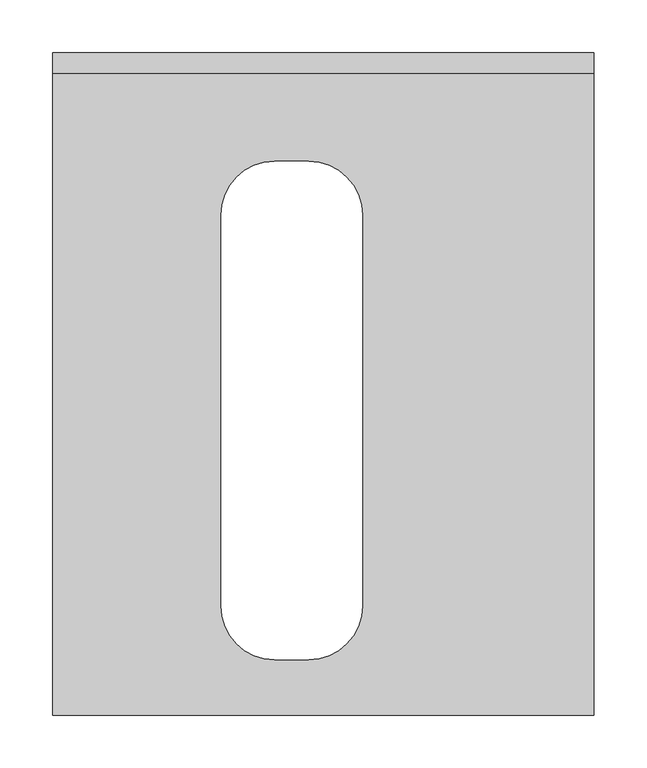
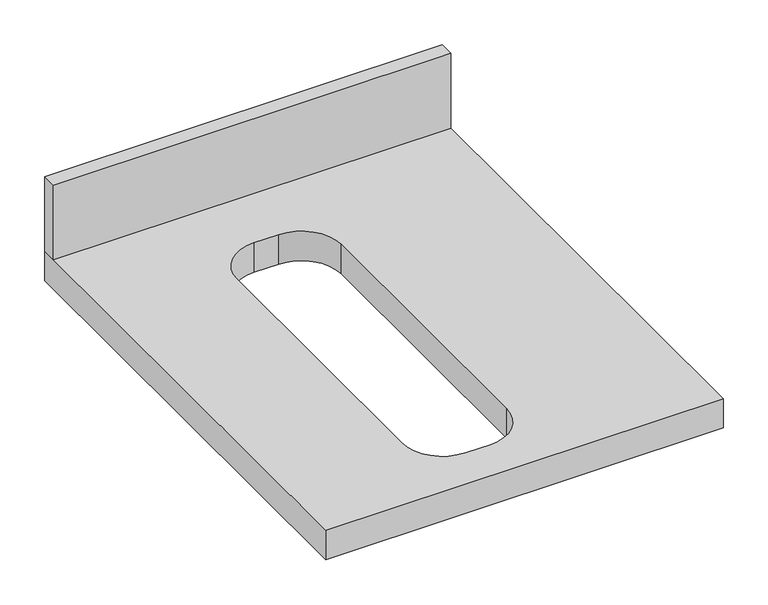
"""IFC4 building model written with IfcOpenShell, lengths in millimetres: furniture geometry, 流理台面 (1)-方型孔 : 600mm 深."""

from ifc_helpers import new_model, si_unit, point, frame, frame_2d, origin, place, context, project, spatial, polyline, circle_curve, trimmed, segment, composite_curve, outline, extrude, source, transform, mapped, element, save


def furniture_984dc523(model_context):
    return source(origin(), model_context, "Body", "SweptSolid", [
        extrude(outline(polyline([(-1268.7247951, 0.0), (-757.7883741, 0.0), (-757.7883741, -19.05), (-1268.7247951, -19.05), (-1268.7247951, 0.0)])), frame((0.0, 0.0, 750.0), z_axis=(0.0, 0.0, 1.0), x_axis=(1.0, 0.0, 0.0)), (0.0, 0.0, 1.0), 101.6),
        extrude(outline(polyline([(-757.7883741, 0.0), (-757.7883741, -625.0), (-1268.7247951, -625.0), (-1268.7247951, 0.0), (-757.7883741, 0.0)]), holes=[composite_curve([segment(trimmed(circle_curve(frame_2d((-1059.2404397, -153.1)), 50.8), [point((-1059.2404397, -102.3))], [point((-1110.0404397, -153.1))], True, "CARTESIAN"), True, "CONTINUOUS"), segment(polyline([(-1110.0404397, -153.1), (-1110.0404397, -521.9)]), True, "CONTINUOUS"), segment(trimmed(circle_curve(frame_2d((-1059.2404397, -521.9)), 50.8), [point((-1110.0404397, -521.9))], [point((-1059.2404397, -572.7))], True, "CARTESIAN"), True, "CONTINUOUS"), segment(polyline([(-1059.2404397, -572.7), (-1027.1631571, -572.7)]), True, "CONTINUOUS"), segment(trimmed(circle_curve(frame_2d((-1027.1631571, -521.9)), 50.8), [point((-1027.1631571, -572.7))], [point((-976.3631571, -521.9))], True, "CARTESIAN"), True, "CONTINUOUS"), segment(polyline([(-976.3631571, -521.9), (-976.3631571, -153.1)]), True, "CONTINUOUS"), segment(trimmed(circle_curve(frame_2d((-1027.1631571, -153.1)), 50.8), [point((-976.3631571, -153.1))], [point((-1027.1631571, -102.3))], True, "CARTESIAN"), True, "CONTINUOUS"), segment(polyline([(-1027.1631571, -102.3), (-1059.2404397, -102.3)]), True, "CONTINUOUS")], self_intersect=False)]), frame((0.0, 0.0, 710.0), z_axis=(0.0, 0.0, 1.0), x_axis=(1.0, 0.0, 0.0)), (0.0, 0.0, 1.0), 40.0),
    ])


if __name__ == "__main__":
    model = new_model("IFC4")
    model_context = context("Model", 3, world=origin())
    ifc_project = project(units=[si_unit("LENGTHUNIT", "METRE", prefix="MILLI")], contexts=[model_context])
    site = spatial("IfcSite", under=ifc_project)
    building = spatial("IfcBuilding", under=site)
    placement = place(None, origin())
    furniture_shape = furniture_984dc523(model_context)
    element("IfcFurniture", 1, ObjectType="流理台面 (1)-方型孔 : 600mm 深", at=placement, inside=building, context=model_context, shape_type="MappedRepresentation", body=[
        mapped(furniture_shape, transform((0.0, 0.0, 0.0), x_axis=(1.0, 0.0, 0.0), y_axis=(0.0, 1.0, 0.0), z_axis=(0.0, 0.0, 1.0))),
    ])
    save(model, "model.ifc")
